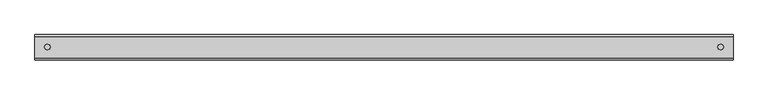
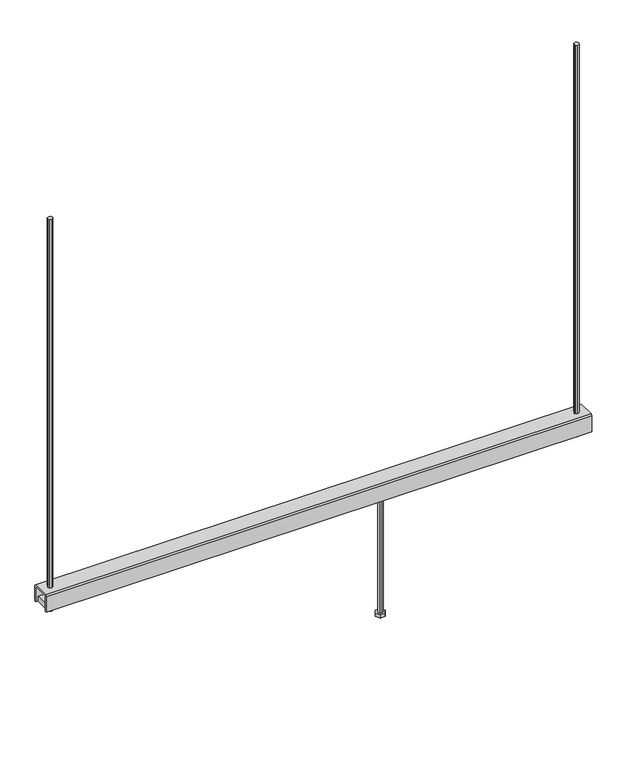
"""IFC4 building model written with IfcOpenShell, lengths in millimetres: proxy geometry, Beared-Hanger : BearedHanger."""

from ifc_helpers import new_model, si_unit, frame, origin, place, context, project, spatial, polyline, outline, extrude, source, transform, mapped, element, save


def mechanical_equipment_328bce3f(model_context):
    return source(origin(), model_context, "Body", "SweptSolid", [
        extrude(outline(polyline([(121.7709918, -17.3962402), (121.7709918, 16.7883301), (151.5878863, 16.7883301), (151.5878863, -17.3962402), (121.7709918, -17.3962402)])), frame((0.0, 0.0, -830.7480384), z_axis=(0.0, 0.0, 1.0), x_axis=(1.0, 0.0, 0.0)), (0.0, 0.0, 1.0), 10.0),
        extrude(outline(polyline([(126.679439, 0.0), (131.679439, 8.659668), (141.679439, 8.659668), (146.679439, 0.0), (141.679439, -8.659668), (131.679439, -8.659668), (126.679439, 0.0)])), frame((0.0, 0.0, -1091.29766), z_axis=(0.0, 0.0, 1.0), x_axis=(1.0, 0.0, 0.0)), (0.0, 0.0, 1.0), 6.6101074),
        extrude(outline(polyline([(136.679439, 5.0), (140.2145953, 3.5351562), (141.679439, 0.0), (140.2145953, -3.5351563), (136.679439, -5.0), (133.1442828, -3.5351563), (131.6788287, 0.0), (133.1442828, 3.5351562), (136.679439, 5.0)])), frame((0.0, 0.0, -1084.6875526), z_axis=(0.0, 0.0, 1.0), x_axis=(1.0, 0.0, 0.0)), (0.0, 0.0, 1.0), 253.9395142),
        extrude(outline(polyline([(521.7534923, -17.3962402), (521.7534923, 16.7883301), (551.5703868, 16.7883301), (551.5703868, -17.3962402), (521.7534923, -17.3962402)])), frame((0.0, 0.0, -830.7480384), z_axis=(0.0, 0.0, 1.0), x_axis=(1.0, 0.0, 0.0)), (0.0, 0.0, 1.0), 10.0),
        extrude(outline(polyline([(536.6619396, 5.0), (540.1970958, 3.5351562), (541.6625499, 0.0), (540.1970958, -3.5351563), (536.6619396, -5.0), (533.1267833, -3.5351563), (531.6619396, 0.0), (533.1267833, 3.5351562), (536.6619396, 5.0)])), frame((0.0, 0.0, -844.3326332), z_axis=(0.0, 0.0, 1.0), x_axis=(1.0, 0.0, 0.0)), (0.0, 0.0, 1.0), 844.3326332),
        extrude(outline(polyline([(-521.7534923, 16.7883301), (-521.7534923, -17.3962402), (-551.5703868, -17.3962402), (-551.5703868, 16.7883301), (-521.7534923, 16.7883301)])), frame((0.0, 0.0, -830.7480384), z_axis=(0.0, 0.0, 1.0), x_axis=(1.0, 0.0, 0.0)), (0.0, 0.0, 1.0), 10.0),
        extrude(outline(polyline([(-536.6619396, 5.0), (-533.1267833, 3.5351563), (-531.6619396, 0.0), (-533.1267833, -3.5351562), (-536.6619396, -5.0), (-540.1970958, -3.5351562), (-541.6625499, 0.0), (-540.1970958, 3.5351563), (-536.6619396, 5.0)])), frame((0.0, 0.0, -844.3326332), z_axis=(0.0, 0.0, 1.0), x_axis=(1.0, 0.0, 0.0)), (0.0, 0.0, 1.0), 844.3326332),
        extrude(outline(polyline([(-17.8259277, -794.3326332), (17.1740723, -794.3326332), (19.6740723, -796.832328), (19.6740723, -830.7480384), (16.7883301, -830.7480384), (16.7883301, -797.3325111), (-17.3962402, -797.3325111), (-17.3962402, -830.7480384), (-20.3259277, -830.7480384), (-20.3259277, -796.832328), (-17.8259277, -794.3326332)])), frame((-556.4413452, 0.0, 0.0), z_axis=(1.0, 0.0, 0.0), x_axis=(0.0, 1.0, 0.0)), (0.0, 0.0, 1.0), 1112.8826904),
    ])


if __name__ == "__main__":
    model = new_model("IFC4")
    model_context = context("Model", 3, world=origin())
    ifc_project = project(units=[si_unit("LENGTHUNIT", "METRE", prefix="MILLI")], contexts=[model_context])
    site = spatial("IfcSite", under=ifc_project)
    building = spatial("IfcBuilding", under=site)
    placement = place(None, origin())
    mechanical_equipment_shape = mechanical_equipment_328bce3f(model_context)
    element("IfcBuildingElementProxy", 1, Name="Beared-Hanger : BearedHanger", ObjectType="Beared-Hanger : BearedHanger", at=placement, inside=building, context=model_context, shape_type="MappedRepresentation", body=[
        mapped(mechanical_equipment_shape, transform((0.0, 0.0, 0.0), x_axis=(1.0, 0.0, 0.0), y_axis=(0.0, 1.0, 0.0), z_axis=(0.0, 0.0, 1.0))),
    ])
    save(model, "model.ifc")
